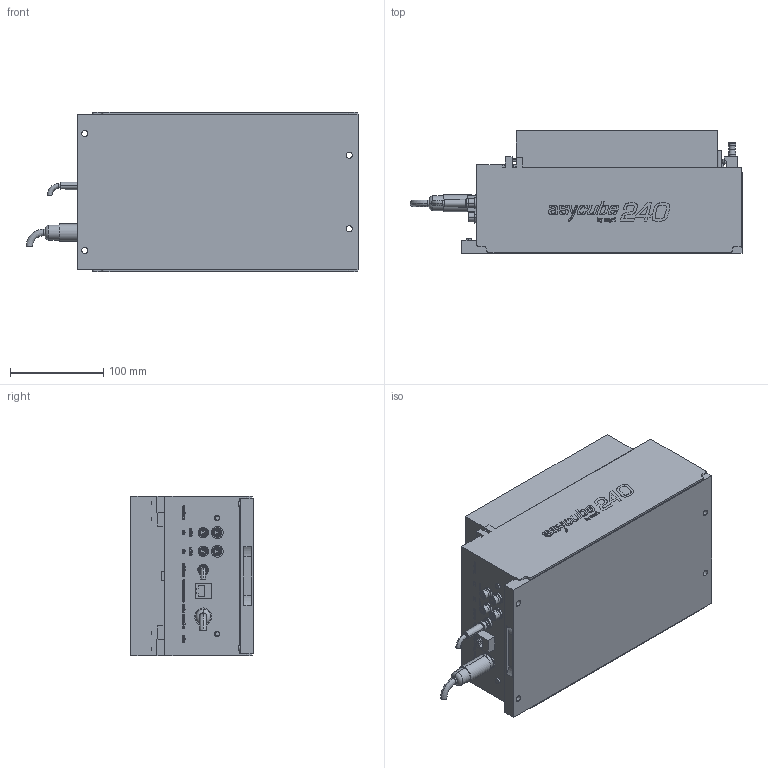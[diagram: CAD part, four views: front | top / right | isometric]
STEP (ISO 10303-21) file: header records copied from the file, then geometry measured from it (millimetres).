
FILE_DESCRIPTION (( 'STEP AP203' ), '1' );
FILE_NAME ('Asyril_ASYCUBE 240--.step', '2018-07-19T06:55:14', ( 'Standard' ), ( '' ), 'SwSTEP 2.0', 'SolidWorks 2016', '' );
FILE_SCHEMA (( 'CONFIG_CONTROL_DESIGN' ));
Length unit declared in the file: millimetre
Products named in the file (7): Asyril_ASYCUBE 240--; Asyril_ASYCUBE 240 WITHOUT BACKLIGHT; Asyril_BACKLIGHT - 240; Asyril_ASYCUBE 240_XXX.XXX.XXX; Asyril_FLAT VIBRATING PLATE (POM-C) - 240_660.005.776_(option); Asyril_FEMALE STRAIGHT 5P 5m M16 POWER CABLE_900.006.215_(option); Asyril_FEMALE STRAIGHT 3P M8 MOLDED CABLE_XXX.XXX.XXX_(option)
Assembly tree (6 placements, depth 3):
  Asyril_ASYCUBE 240--
    Asyril_ASYCUBE 240_XXX.XXX.XXX
      Asyril_ASYCUBE 240 WITHOUT BACKLIGHT
      Asyril_BACKLIGHT - 240
    Asyril_FLAT VIBRATING PLATE (POM-C) - 240_660.005.776_(option)
    Asyril_FEMALE STRAIGHT 5P 5m M16 POWER CABLE_900.006.215_(option)
    Asyril_FEMALE STRAIGHT 3P M8 MOLDED CABLE_XXX.XXX.XXX_(option)
Bounding box: 355.5 x 131 x 171 mm (x, y, z)
Volume: 3210808.3 mm3; surface area: 475241.9 mm2
Topology: 5 solids, 14 shells, 1297 faces, 3896 edges, 2839 vertices
Faces by surface type: plane 674, bspline 338, cylinder 237, cone 29, torus 14, sphere 5
Entity records: 76695 total; most frequent: CARTESIAN_POINT 42836, ORIENTED_EDGE 7764, DIRECTION 5299, EDGE_CURVE 3882, VERTEX_POINT 2833, VECTOR 2263, LINE 2263, EDGE_LOOP 1543
